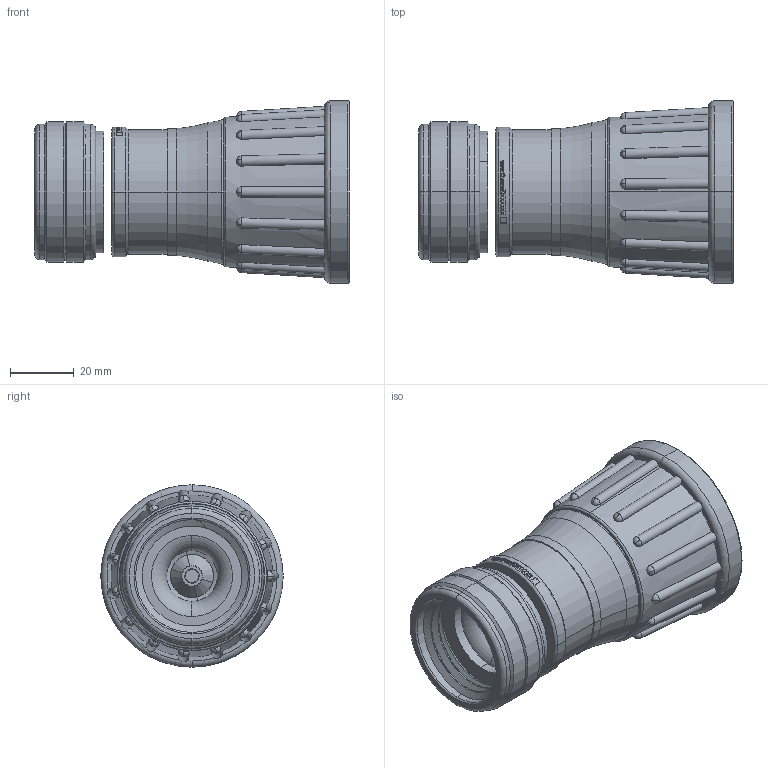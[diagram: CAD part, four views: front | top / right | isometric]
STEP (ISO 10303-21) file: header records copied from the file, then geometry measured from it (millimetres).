
FILE_DESCRIPTION (( 'STEP AP203' ), '1' );
FILE_NAME ('D1024.step', '2014-05-13T19:31:03', ( 'user' ), ( '' ), 'SwSTEP 2.0', 'SolidWorks 2012', '' );
FILE_SCHEMA (( 'CONFIG_CONTROL_DESIGN' ));
Length unit declared in the file: inch
Products named in the file (1): D1024
Bounding box: 98.38 x 57.02 x 57.02 mm (x, y, z)
Surface area: 24791.2 mm2 (no closed solid volume)
Topology: 0 solids, 10 shells, 317 faces, 1214 edges, 838 vertices
Faces by surface type: bspline 85, cylinder 73, plane 68, torus 34, sphere 30, cone 27
Entity records: 16850 total; most frequent: CARTESIAN_POINT 8419, ORIENTED_EDGE 1833, DIRECTION 1353, EDGE_CURVE 1154, VERTEX_POINT 808, AXIS2_PLACEMENT_3D 593, B_SPLINE_CURVE_WITH_KNOTS 575, CIRCLE 360
